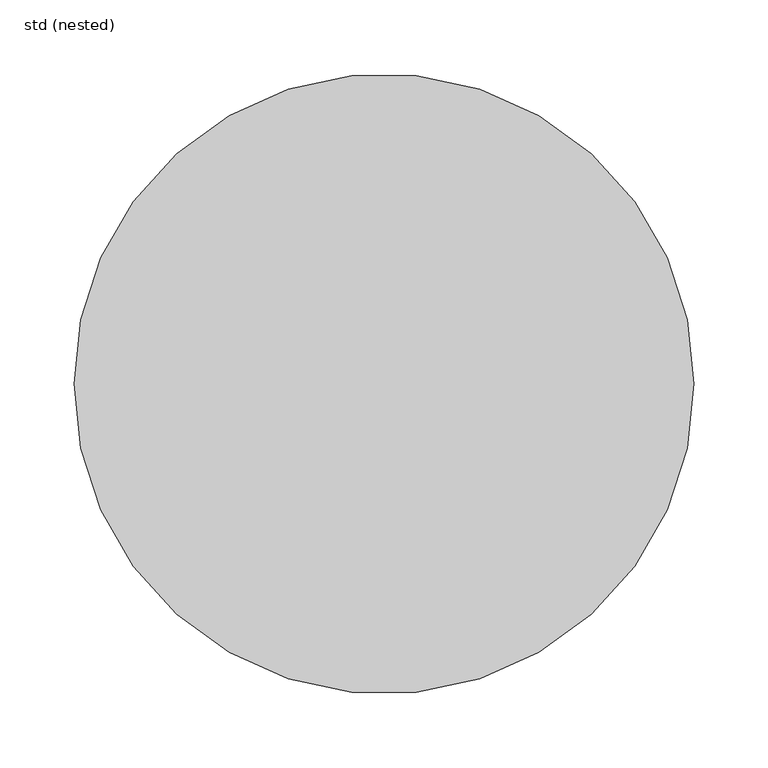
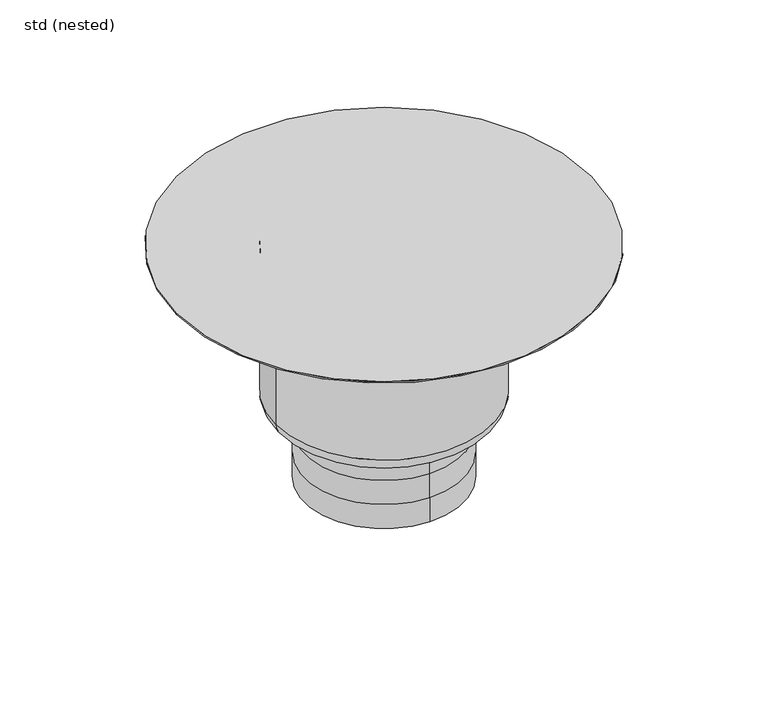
"""IFC4 building model written with IfcOpenShell, lengths in millimetres: sanitary terminal geometry, ZZZ_do not use_PF_ST_UN_telescopic hygienic gully_ACO : std (nested)."""

from ifc_helpers import new_model, si_unit, point, frame, origin, origin_with_axes, place, context, project, spatial, circle_curve, ellipse_curve, trimmed, source, transform, mapped, element, save
from ifc_brep_helpers import plane_surface, cylinder_surface, revolved_surface, advanced_brep


def std_nested_c48ed7b9(model_context):
    return source(origin(), model_context, "Body", "AdvancedBrep", [
        advanced_brep(
        [(0.0, -80.0, -247.0), (0.0, 80.0, -247.0), (0.0, -80.0, -221.3333333), (0.0, 80.0, -221.3333333), (0.0, -80.0, -195.6666667), (0.0, 80.0, -195.6666667), (0.0, 80.0, -170.0), (80.0, 0.0, -170.0), (0.0, -80.0, -170.0), (-80.0, 0.0, -170.0), (109.0, 0.0, -153.5), (-109.0, 0.0, -153.5), (-109.0, 0.0, -1.5), (109.0, 0.0, -1.5), (92.5, 0.0, -170.0), (-92.5, 0.0, -170.0), (-209.0, 0.0, -1.5), (209.0, 0.0, -1.5), (-209.0, 0.0, 0.0), (209.0, 0.0, 0.0)],
        [
            (0, 1, circle_curve(frame((0.0, 0.0, -247.0), z_axis=(0.0, 0.0, -1.0), x_axis=(0.0, 1.0, 0.0)), 80.0)),
            (1, 0, circle_curve(frame((0.0, 0.0, -247.0), z_axis=(0.0, 0.0, -1.0), x_axis=(0.0, 1.0, 0.0)), 80.0)),
            (0, 2),
            (2, 3, circle_curve(frame((0.0, 0.0, -221.3333333), z_axis=(0.0, 0.0, -1.0), x_axis=(0.0, 1.0, 0.0)), 80.0)),
            (3, 1),
            (3, 2, circle_curve(frame((0.0, 0.0, -221.3333333), z_axis=(0.0, 0.0, -1.0), x_axis=(0.0, 1.0, 0.0)), 80.0)),
            (4, 2),
            (3, 5),
            (5, 4, circle_curve(frame((0.0, 0.0, -195.6666667), z_axis=(0.0, 0.0, -1.0), x_axis=(1.0, 0.0, 0.0)), 80.0)),
            (4, 5, circle_curve(frame((0.0, 0.0, -195.6666667), z_axis=(0.0, 0.0, -1.0), x_axis=(-1.0, 0.0, 0.0)), 80.0)),
            (5, 6),
            (6, 7, circle_curve(frame((0.0, 0.0, -170.0), z_axis=(0.0, 0.0, -1.0), x_axis=(0.0, 1.0, 0.0)), 80.0)),
            (7, 8, circle_curve(frame((0.0, 0.0, -170.0), z_axis=(0.0, 0.0, -1.0), x_axis=(0.0, 1.0, 0.0)), 80.0)),
            (8, 4),
            (8, 9, circle_curve(frame((0.0, 0.0, -170.0), z_axis=(0.0, 0.0, -1.0), x_axis=(0.0, 1.0, 0.0)), 80.0)),
            (9, 6, circle_curve(frame((0.0, 0.0, -170.0), z_axis=(0.0, 0.0, -1.0), x_axis=(0.0, 1.0, 0.0)), 80.0)),
            (10, 11, circle_curve(frame((0.0, 0.0, -153.5), z_axis=(0.0, 0.0, 1.0), x_axis=(-1.0, 0.0, 0.0)), 109.0)),
            (11, 12),
            (12, 13, circle_curve(frame((0.0, 0.0, -1.5), z_axis=(0.0, 0.0, -1.0), x_axis=(-1.0, 0.0, 0.0)), 109.0)),
            (13, 10),
            (11, 10, circle_curve(frame((0.0, 0.0, -153.5), z_axis=(0.0, 0.0, 1.0), x_axis=(-1.0, 0.0, 0.0)), 109.0)),
            (13, 12, circle_curve(frame((0.0, 0.0, -1.5), z_axis=(0.0, 0.0, -1.0), x_axis=(-1.0, 0.0, 0.0)), 109.0)),
            (10, 14, circle_curve(frame((92.5, 0.0, -153.5), z_axis=(0.0, 1.0, 0.0), x_axis=(-1.0, 0.0, 0.0)), 16.5)),
            (14, 15, circle_curve(frame((0.0, 0.0, -170.0), z_axis=(0.0, 0.0, 1.0), x_axis=(-1.0, 0.0, 0.0)), 92.5)),
            (15, 11, circle_curve(frame((-92.5, 0.0, -153.5), z_axis=(0.0, 1.0, 0.0), x_axis=(1.0, 0.0, 0.0)), 16.5)),
            (15, 14, circle_curve(frame((0.0, 0.0, -170.0), z_axis=(0.0, 0.0, 1.0), x_axis=(-1.0, 0.0, 0.0)), 92.5)),
            (14, 7),
            (9, 15),
            (16, 17, circle_curve(frame((0.0, 0.0, -1.5), z_axis=(0.0, 0.0, -1.0), x_axis=(1.0, 0.0, 0.0)), 209.0)),
            (17, 16, circle_curve(frame((0.0, 0.0, -1.5), z_axis=(0.0, 0.0, -1.0), x_axis=(1.0, 0.0, 0.0)), 209.0)),
            (18, 19, circle_curve(origin_with_axes(), 209.0)),
            (19, 18, circle_curve(origin_with_axes(), 209.0)),
            (17, 19),
            (18, 16),
        ],
        [
            plane_surface(frame((0.0, 80.0, -247.0), z_axis=(0.0, 0.0, -1.0), x_axis=(1.0, 0.0, 0.0))),
            cylinder_surface(frame((0.0, 0.0, -221.3333333), z_axis=(0.0, 0.0, -1.0), x_axis=(0.0, 1.0, 0.0)), 80.0),
            cylinder_surface(frame((0.0, 0.0, -195.6666667), z_axis=(0.0, 0.0, -1.0), x_axis=(1.0, 0.0, 0.0)), 80.0),
            cylinder_surface(frame((0.0, 0.0, -195.6666667), z_axis=(0.0, 0.0, -1.0), x_axis=(-1.0, 0.0, 0.0)), 80.0),
            cylinder_surface(frame((0.0, 0.0, -170.0), z_axis=(0.0, 0.0, -1.0), x_axis=(0.0, 1.0, 0.0)), 80.0),
            cylinder_surface(frame((0.0, 0.0, 60.0), z_axis=(0.0, 0.0, -1.0), x_axis=(-1.0, 0.0, 0.0)), 109.0),
            revolved_surface(trimmed(ellipse_curve(frame((-92.5, 0.0, -153.5), z_axis=(0.0, -1.0, 0.0), x_axis=(1.0, 0.0, 0.0)), 16.5, 16.5), [point((-109.0, 0.0, -153.5))], [point((-92.5, 0.0, -170.0))], True, "CARTESIAN"), (0.0, 0.0, 60.0), (0.0, 0.0, -1.0)),
            plane_surface(frame((0.0, 0.0, -170.0), z_axis=(0.0, 0.0, -1.0), x_axis=(-1.0, 0.0, 0.0))),
            plane_surface(frame((209.0, 0.0, -1.5), z_axis=(0.0, 0.0, -1.0), x_axis=(0.0, -1.0, 0.0))),
            plane_surface(frame((209.0, 0.0, 0.0), z_axis=(0.0, 0.0, 1.0), x_axis=(0.0, 1.0, 0.0))),
            cylinder_surface(frame((0.0, 0.0, -1.5), z_axis=(0.0, 0.0, 1.0), x_axis=(1.0, 0.0, 0.0)), 209.0),
        ],
        [
            (0, [[1, 2]]),
            (1, [[-1, 3, 4, 5]]),
            (1, [[-2, -5, 6, -3]]),
            (2, [[7, -6, 8, 9]]),
            (3, [[-7, 10, -8, -4]]),
            (4, [[11, 12, 13, 14, -9]]),
            (4, [[-11, -10, -14, 15, 16]]),
            (5, [[17, 18, 19, 20]]),
            (5, [[-18, 21, -20, 22]]),
            (6, [[-17, 23, 24, 25]]),
            (6, [[-21, -25, 26, -23]]),
            (7, [[-24, 27, -12, -16, 28]]),
            (7, [[-26, -28, -15, -13, -27]]),
            (8, [[29, 30], [-19, -22]]),
            (9, [[31, 32]]),
            (10, [[-30, 33, -31, 34]]),
            (10, [[-29, -34, -32, -33]]),
        ],
    ),
    ])


if __name__ == "__main__":
    model = new_model("IFC4")
    model_context = context("Model", 3, world=origin())
    ifc_project = project(units=[si_unit("LENGTHUNIT", "METRE", prefix="MILLI")], contexts=[model_context])
    site = spatial("IfcSite", under=ifc_project)
    building = spatial("IfcBuilding", under=site)
    placement = place(None, origin())
    std_nested_shape = std_nested_c48ed7b9(model_context)
    element("IfcSanitaryTerminal", 1, ObjectType="ZZZ_do not use_PF_ST_UN_telescopic hygienic gully_ACO : std (nested)", at=placement, inside=building, context=model_context, shape_type="MappedRepresentation", body=[
        mapped(std_nested_shape, transform((0.0, 0.0, 0.0), x_axis=(1.0, 0.0, 0.0), y_axis=(0.0, 1.0, 0.0), z_axis=(0.0, 0.0, 1.0))),
    ])
    save(model, "model.ifc")
